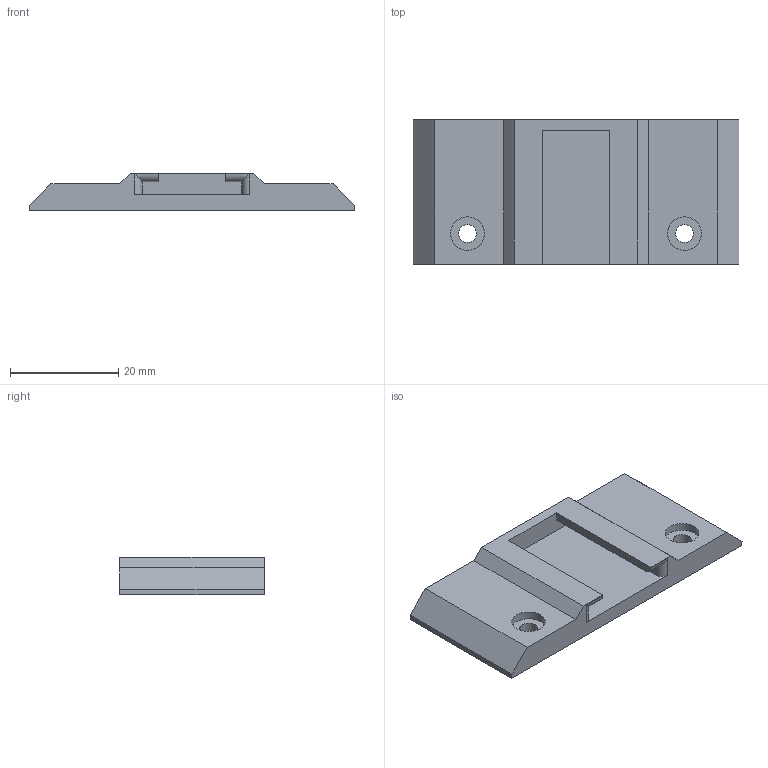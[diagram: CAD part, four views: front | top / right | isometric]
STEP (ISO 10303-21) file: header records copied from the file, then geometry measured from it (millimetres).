
FILE_DESCRIPTION(/* description */ (''),/* implementation_level */ '2;1');
FILE_NAME(/* name */ 'C:/Users/mcjor/3D Objects/6x17 Camera/coldshoe.stp',/* time_stamp */ '2021-12-20T19:59:39+01:00',/* author */ (''),/* organization */ (''),/* preprocessor_version */ 'ST-DEVELOPER v15.2',/* originating_system */ 'Autodesk Translator Framework v2.0.0.5431',/* authorisation */ '');
FILE_SCHEMA (('AUTOMOTIVE_DESIGN { 1 0 10303 214 3 1 1 }'));
Length unit declared in the file: centimetre
Products named in the file (1): hotshoe
Bounding box: 60 x 26.57 x 7 mm (x, y, z)
Volume: 7134.9 mm3; surface area: 4612 mm2
Topology: 1 solids, 1 shells, 30 faces, 80 edges, 54 vertices
Faces by surface type: plane 22, cylinder 8
Full cylindrical faces by diameter (mm): 3.3 x2, 6.2 x2
Entity records: 923 total; most frequent: CARTESIAN_POINT 157, DIRECTION 150, ORIENTED_EDGE 148, EDGE_CURVE 74, LINE 60, VECTOR 60, VERTEX_POINT 52, AXIS2_PLACEMENT_3D 45
